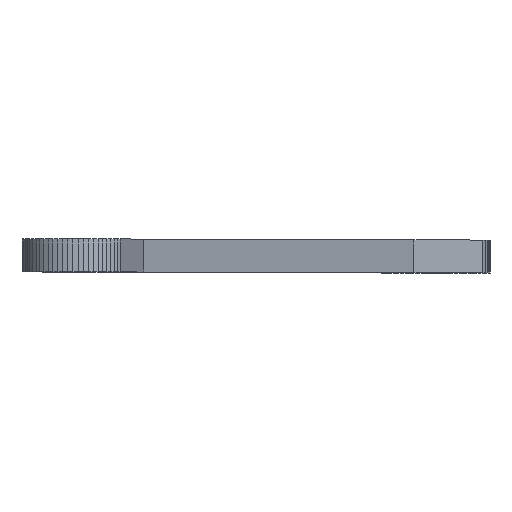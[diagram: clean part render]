
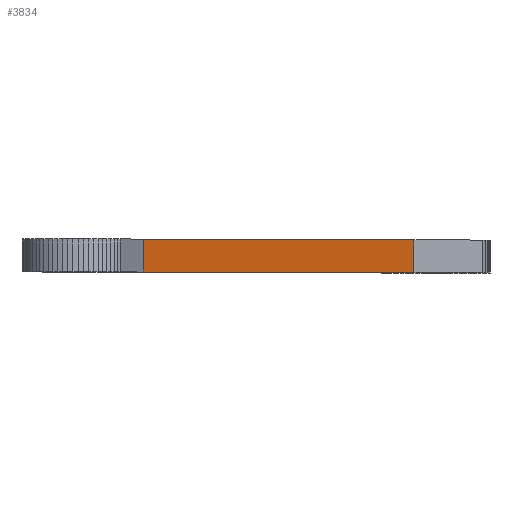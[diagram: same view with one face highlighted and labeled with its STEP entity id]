
A CAD part, top view. The second image highlights one B-rep face of the part: STEP entity #3834.
In plain terms, the highlighted planar face has unit normal (0.866, 0, 0.5).
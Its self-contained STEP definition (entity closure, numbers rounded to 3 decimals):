
#44 = PLANE('',#45);
#45 = AXIS2_PLACEMENT_3D('',#46,#47,#48);
#46 = CARTESIAN_POINT('',(10.464,23.,29.876));
#47 = DIRECTION('',(-0.97,0.,-0.243)
  );
#48 = DIRECTION('',(-0.243,0.,0.97));
#72 = PLANE('',#73);
#73 = AXIS2_PLACEMENT_3D('',#74,#75,#76);
#74 = CARTESIAN_POINT('',(27.5,18.,-7.631));
#75 = DIRECTION('',(0.,-1.,0.));
#76 = DIRECTION('',(0.5,0.,-0.866));
#126 = PLANE('',#127);
#127 = AXIS2_PLACEMENT_3D('',#128,#129,#130);
#128 = CARTESIAN_POINT('',(27.5,23.,-7.631));
#129 = DIRECTION('',(0.,-1.,0.));
#130 = DIRECTION('',(0.5,0.,-0.866));
#141 = EDGE_CURVE('',#142,#144,#146,.T.);
#142 = VERTEX_POINT('',#143);
#143 = CARTESIAN_POINT('',(10.464,23.,29.876));
#144 = VERTEX_POINT('',#145);
#145 = CARTESIAN_POINT('',(10.464,18.,29.876));
#146 = SURFACE_CURVE('',#147,(#151,#158),.PCURVE_S1.);
#147 = LINE('',#148,#149);
#148 = CARTESIAN_POINT('',(10.464,23.,29.876));
#149 = VECTOR('',#150,1.);
#150 = DIRECTION('',(0.,-1.,0.));
#151 = PCURVE('',#44,#152);
#152 = DEFINITIONAL_REPRESENTATION('',(#153),#157);
#153 = LINE('',#154,#155);
#154 = CARTESIAN_POINT('',(0.,0.));
#155 = VECTOR('',#156,1.);
#156 = DIRECTION('',(0.,-1.));
#157 = ( GEOMETRIC_REPRESENTATION_CONTEXT(2) 
PARAMETRIC_REPRESENTATION_CONTEXT() REPRESENTATION_CONTEXT('2D SPACE',''
  ) );
#158 = PCURVE('',#159,#164);
#159 = PLANE('',#160);
#160 = AXIS2_PLACEMENT_3D('',#161,#162,#163);
#161 = CARTESIAN_POINT('',(51.464,23.,-41.138));
#162 = DIRECTION('',(-0.866,0.,-0.5));
#163 = DIRECTION('',(-0.5,0.,0.866));
#164 = DEFINITIONAL_REPRESENTATION('',(#165),#169);
#165 = LINE('',#166,#167);
#166 = CARTESIAN_POINT('',(82.,0.));
#167 = VECTOR('',#168,1.);
#168 = DIRECTION('',(0.,-1.));
#169 = ( GEOMETRIC_REPRESENTATION_CONTEXT(2) 
PARAMETRIC_REPRESENTATION_CONTEXT() REPRESENTATION_CONTEXT('2D SPACE',''
  ) );
#2111 = VERTEX_POINT('',#2112);
#2112 = CARTESIAN_POINT('',(51.464,23.,-41.138));
#2126 = PLANE('',#2127);
#2127 = AXIS2_PLACEMENT_3D('',#2128,#2129,#2130);
#2128 = CARTESIAN_POINT('',(61.928,23.,-51.263));
#2129 = DIRECTION('',(-0.695,0.,
    -0.719));
#2130 = DIRECTION('',(-0.719,0.,0.695
    ));
#2138 = EDGE_CURVE('',#2111,#142,#2139,.T.);
#2139 = SURFACE_CURVE('',#2140,(#2144,#2151),.PCURVE_S1.);
#2140 = LINE('',#2141,#2142);
#2141 = CARTESIAN_POINT('',(51.464,23.,-41.138));
#2142 = VECTOR('',#2143,1.);
#2143 = DIRECTION('',(-0.5,0.,0.866));
#2144 = PCURVE('',#126,#2145);
#2145 = DEFINITIONAL_REPRESENTATION('',(#2146),#2150);
#2146 = LINE('',#2147,#2148);
#2147 = CARTESIAN_POINT('',(41.,4.));
#2148 = VECTOR('',#2149,1.);
#2149 = DIRECTION('',(-1.,0.));
#2150 = ( GEOMETRIC_REPRESENTATION_CONTEXT(2) 
PARAMETRIC_REPRESENTATION_CONTEXT() REPRESENTATION_CONTEXT('2D SPACE',''
  ) );
#2151 = PCURVE('',#159,#2152);
#2152 = DEFINITIONAL_REPRESENTATION('',(#2153),#2157);
#2153 = LINE('',#2154,#2155);
#2154 = CARTESIAN_POINT('',(0.,0.));
#2155 = VECTOR('',#2156,1.);
#2156 = DIRECTION('',(1.,0.));
#2157 = ( GEOMETRIC_REPRESENTATION_CONTEXT(2) 
PARAMETRIC_REPRESENTATION_CONTEXT() REPRESENTATION_CONTEXT('2D SPACE',''
  ) );
#3731 = VERTEX_POINT('',#3732);
#3732 = CARTESIAN_POINT('',(51.464,18.,-41.138));
#3753 = EDGE_CURVE('',#3731,#144,#3754,.T.);
#3754 = SURFACE_CURVE('',#3755,(#3759,#3766),.PCURVE_S1.);
#3755 = LINE('',#3756,#3757);
#3756 = CARTESIAN_POINT('',(51.464,18.,-41.138));
#3757 = VECTOR('',#3758,1.);
#3758 = DIRECTION('',(-0.5,0.,0.866));
#3759 = PCURVE('',#72,#3760);
#3760 = DEFINITIONAL_REPRESENTATION('',(#3761),#3765);
#3761 = LINE('',#3762,#3763);
#3762 = CARTESIAN_POINT('',(41.,4.));
#3763 = VECTOR('',#3764,1.);
#3764 = DIRECTION('',(-1.,0.));
#3765 = ( GEOMETRIC_REPRESENTATION_CONTEXT(2) 
PARAMETRIC_REPRESENTATION_CONTEXT() REPRESENTATION_CONTEXT('2D SPACE',''
  ) );
#3766 = PCURVE('',#159,#3767);
#3767 = DEFINITIONAL_REPRESENTATION('',(#3768),#3772);
#3768 = LINE('',#3769,#3770);
#3769 = CARTESIAN_POINT('',(0.,-5.));
#3770 = VECTOR('',#3771,1.);
#3771 = DIRECTION('',(1.,0.));
#3772 = ( GEOMETRIC_REPRESENTATION_CONTEXT(2) 
PARAMETRIC_REPRESENTATION_CONTEXT() REPRESENTATION_CONTEXT('2D SPACE',''
  ) );
#3834 = ADVANCED_FACE('',(#3835),#159,.F.);
#3835 = FACE_BOUND('',#3836,.F.);
#3836 = EDGE_LOOP('',(#3837,#3858,#3859,#3860));
#3837 = ORIENTED_EDGE('',*,*,#3838,.T.);
#3838 = EDGE_CURVE('',#2111,#3731,#3839,.T.);
#3839 = SURFACE_CURVE('',#3840,(#3844,#3851),.PCURVE_S1.);
#3840 = LINE('',#3841,#3842);
#3841 = CARTESIAN_POINT('',(51.464,23.,-41.138));
#3842 = VECTOR('',#3843,1.);
#3843 = DIRECTION('',(0.,-1.,0.));
#3844 = PCURVE('',#159,#3845);
#3845 = DEFINITIONAL_REPRESENTATION('',(#3846),#3850);
#3846 = LINE('',#3847,#3848);
#3847 = CARTESIAN_POINT('',(0.,0.));
#3848 = VECTOR('',#3849,1.);
#3849 = DIRECTION('',(0.,-1.));
#3850 = ( GEOMETRIC_REPRESENTATION_CONTEXT(2) 
PARAMETRIC_REPRESENTATION_CONTEXT() REPRESENTATION_CONTEXT('2D SPACE',''
  ) );
#3851 = PCURVE('',#2126,#3852);
#3852 = DEFINITIONAL_REPRESENTATION('',(#3853),#3857);
#3853 = LINE('',#3854,#3855);
#3854 = CARTESIAN_POINT('',(14.56,0.));
#3855 = VECTOR('',#3856,1.);
#3856 = DIRECTION('',(0.,-1.));
#3857 = ( GEOMETRIC_REPRESENTATION_CONTEXT(2) 
PARAMETRIC_REPRESENTATION_CONTEXT() REPRESENTATION_CONTEXT('2D SPACE',''
  ) );
#3858 = ORIENTED_EDGE('',*,*,#3753,.T.);
#3859 = ORIENTED_EDGE('',*,*,#141,.F.);
#3860 = ORIENTED_EDGE('',*,*,#2138,.F.);
